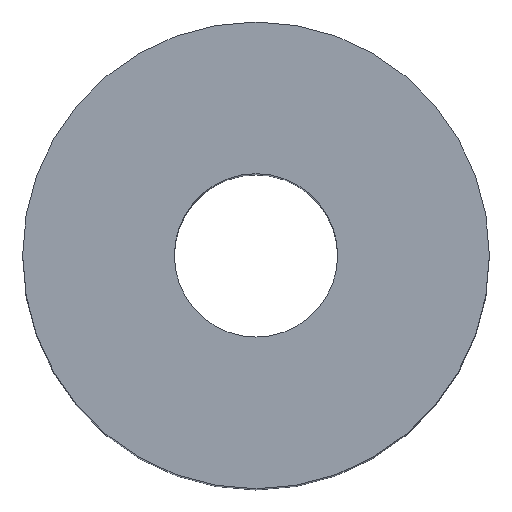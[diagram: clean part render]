
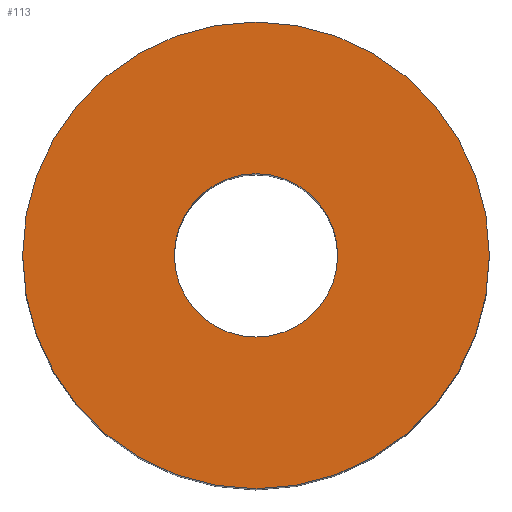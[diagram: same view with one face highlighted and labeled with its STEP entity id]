
A CAD part, top view. The second image highlights one B-rep face of the part: STEP entity #113.
In plain terms, the highlighted planar face has unit normal (0, 0, 1).
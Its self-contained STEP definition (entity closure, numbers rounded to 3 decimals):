
#113=ADVANCED_FACE('',(#121,#122),#119,.T.);
#119=PLANE('',#190);
#121=FACE_BOUND('',#125,.T.);
#122=FACE_BOUND('',#126,.T.);
#125=EDGE_LOOP('',(#133,#134));
#126=EDGE_LOOP('',(#135,#136));
#133=ORIENTED_EDGE('',*,*,#165,.T.);
#134=ORIENTED_EDGE('',*,*,#166,.T.);
#135=ORIENTED_EDGE('',*,*,#167,.F.);
#136=ORIENTED_EDGE('',*,*,#168,.F.);
#157=VERTEX_POINT('',#236);
#158=VERTEX_POINT('',#237);
#159=VERTEX_POINT('',#240);
#160=VERTEX_POINT('',#241);
#165=EDGE_CURVE('',#157,#158,#177,.T.);
#166=EDGE_CURVE('',#158,#157,#178,.T.);
#167=EDGE_CURVE('',#159,#160,#179,.T.);
#168=EDGE_CURVE('',#160,#159,#180,.T.);
#177=CIRCLE('',#186,20.);
#178=CIRCLE('',#187,20.);
#179=CIRCLE('',#188,7.);
#180=CIRCLE('',#189,7.);
#186=AXIS2_PLACEMENT_3D('',#235,#202,#203);
#187=AXIS2_PLACEMENT_3D('',#238,#204,#205);
#188=AXIS2_PLACEMENT_3D('',#239,#206,#207);
#189=AXIS2_PLACEMENT_3D('',#242,#208,#209);
#190=AXIS2_PLACEMENT_3D('',#243,#210,#211);
#202=DIRECTION('',(0.,0.,1.));
#203=DIRECTION('',(0.,1.,0.));
#204=DIRECTION('',(0.,0.,1.));
#205=DIRECTION('',(0.,-1.,0.));
#206=DIRECTION('',(0.,0.,1.));
#207=DIRECTION('',(0.,-1.,0.));
#208=DIRECTION('',(0.,0.,1.));
#209=DIRECTION('',(0.,1.,0.));
#210=DIRECTION('',(0.,0.,1.));
#211=DIRECTION('',(0.,1.,0.));
#235=CARTESIAN_POINT('',(0.,0.,60.));
#236=CARTESIAN_POINT('',(-20.,0.,60.));
#237=CARTESIAN_POINT('',(20.,0.,60.));
#238=CARTESIAN_POINT('',(0.,0.,60.));
#239=CARTESIAN_POINT('',(0.,0.,60.));
#240=CARTESIAN_POINT('',(7.,0.,60.));
#241=CARTESIAN_POINT('',(-7.,0.,60.));
#242=CARTESIAN_POINT('',(0.,0.,60.));
#243=CARTESIAN_POINT('',(0.,0.,60.));
